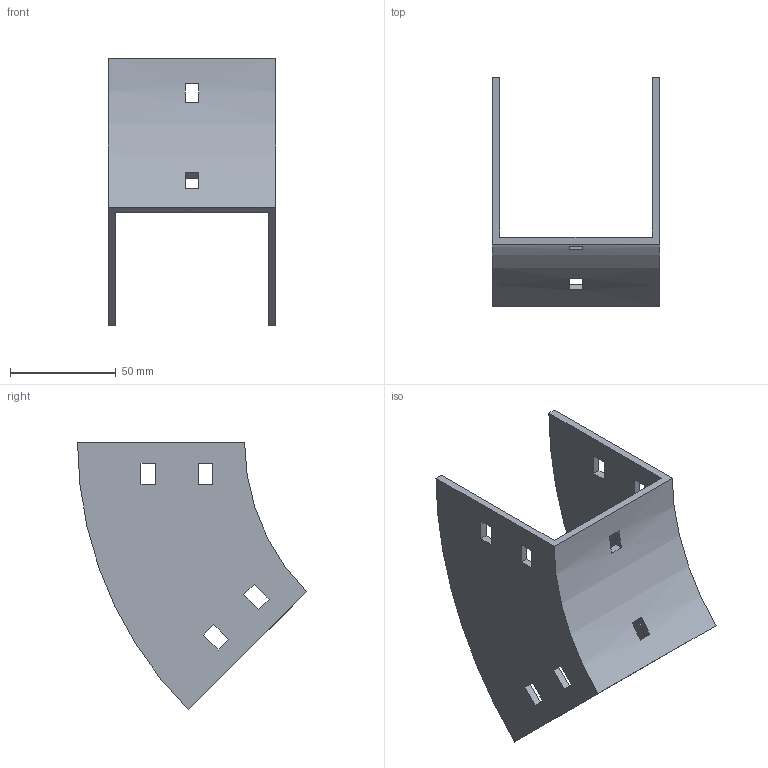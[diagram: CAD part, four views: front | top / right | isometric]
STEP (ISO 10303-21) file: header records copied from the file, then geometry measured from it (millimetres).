
FILE_DESCRIPTION (( 'STEP AP214' ), '1' );
FILE_NAME ('34B1C075.step', '2025-02-21T09:29:13', ( '' ), ( '' ), 'SwSTEP 2.0', 'SolidWorks 2023', '' );
FILE_SCHEMA (( 'AUTOMOTIVE_DESIGN' ));
Length unit declared in the file: millimetre
Products named in the file (1): 34B1C075
Bounding box: 79 x 108.29 x 126.57 mm (x, y, z)
Volume: 78351.6 mm3; surface area: 48528.9 mm2
Topology: 1 solids, 1 shells, 50 faces, 144 edges, 96 vertices
Faces by surface type: plane 46, cylinder 4
Entity records: 1687 total; most frequent: CARTESIAN_POINT 291, ORIENTED_EDGE 288, DIRECTION 262, EDGE_CURVE 144, LINE 128, VECTOR 128, VERTEX_POINT 96, EDGE_LOOP 70
